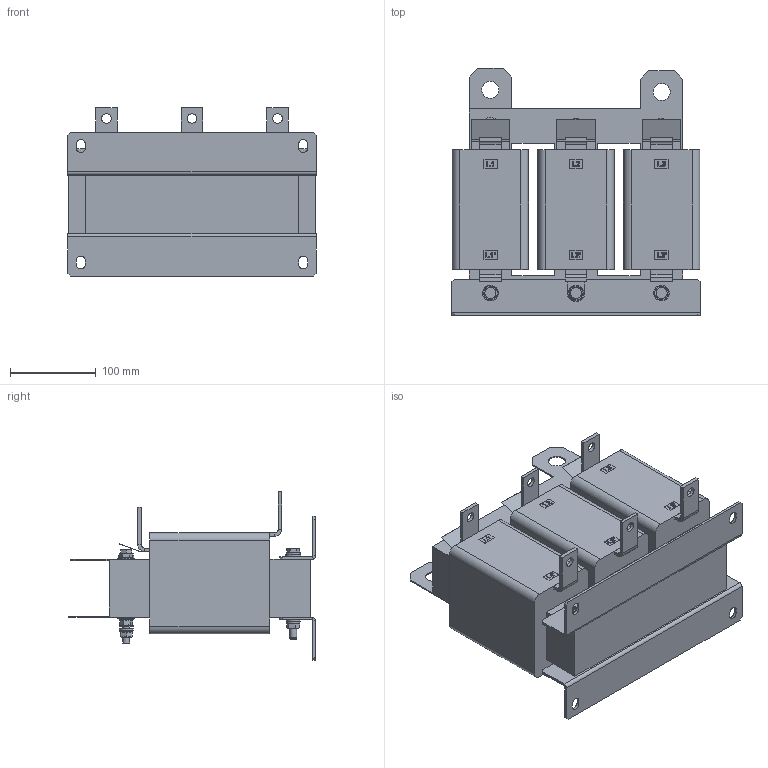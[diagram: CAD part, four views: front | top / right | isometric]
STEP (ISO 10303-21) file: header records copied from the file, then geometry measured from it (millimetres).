
FILE_DESCRIPTION(/* description */ ('raw material description'),/* implementation_level */ '2;1');
FILE_NAME(/* name */ 'P:\Construction\Filter_Marketing\RWK\RWK3044_RWK3062\RWK3044\RWK3044-260-99-E0XXX.stp',/* time_stamp */ '2018-08-27T10:51:27+02:00',/* author */ ('Erika.Jenzer'),/* organization */ ('Schaffner EMV AG'),/* preprocessor_version */ 'ST-DEVELOPER v16.5',/* originating_system */ 'Autodesk Inventor 2017',/* authorisation */ '');
FILE_SCHEMA (('AUTOMOTIVE_DESIGN { 1 0 10303 214 3 1 1 }'));
Length unit declared in the file: millimetre
Products named in the file (1): RWK3044-260-99-E0XXX
Bounding box: 290 x 288.6 x 196.8 mm (x, y, z)
Volume: 6111908.9 mm3; surface area: 441675.5 mm2
Topology: 39 solids, 50 shells, 1062 faces, 2599 edges, 1713 vertices
Faces by surface type: plane 727, cylinder 169, cone 109, bspline 50, torus 7
Full cylindrical faces by diameter (mm): 8 x19, 8.2 x6, 8.4 x14, 9.9 x5, 10.5 x3, 11 x6, 11.4 x6, 13 x1, 16 x12, 18 x5, 20 x4
Entity records: 31136 total; most frequent: CARTESIAN_POINT 6193, ORIENTED_EDGE 4894, DIRECTION 4618, EDGE_CURVE 2440, LINE 1700, VECTOR 1700, VERTEX_POINT 1672, AXIS2_PLACEMENT_3D 1459
